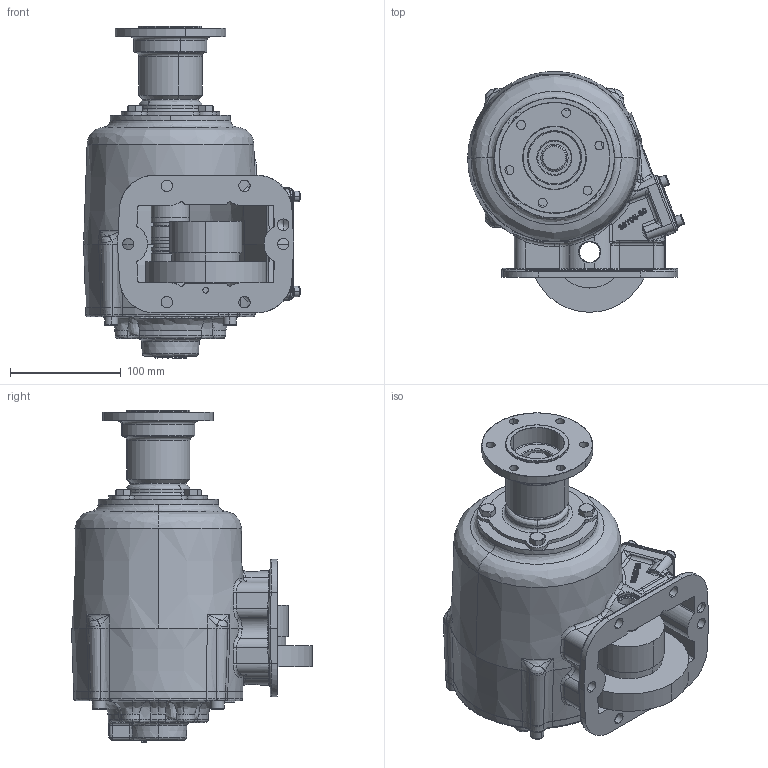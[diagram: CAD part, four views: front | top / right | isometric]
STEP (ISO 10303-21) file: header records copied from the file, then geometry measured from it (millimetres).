
FILE_DESCRIPTION (( 'STEP AP203' ), '1' );
FILE_NAME ('CS6S-XXXXX-X32X.STEP', '2011-11-29T20:09:17', ( 'User' ), ( 'Muncie Power Products, Inc.' ), 'SwSTEP 2.0', 'SolidWorks 2011', '' );
FILE_SCHEMA (( 'CONFIG_CONTROL_DESIGN' ));
Length unit declared in the file: inch
Products named in the file (1): CS6S-XXXXX-X32X
Bounding box: 195.33 x 216.75 x 299.11 mm (x, y, z)
Surface area: 449502.6 mm2 (no closed solid volume)
Topology: 0 solids, 24 shells, 2299 faces, 5721 edges, 3546 vertices
Faces by surface type: bspline 867, plane 514, cylinder 503, cone 292, torus 110, sphere 13
Entity records: 157394 total; most frequent: CARTESIAN_POINT 109224, ORIENTED_EDGE 11314, DIRECTION 7602, EDGE_CURVE 5661, VERTEX_POINT 3546, AXIS2_PLACEMENT_3D 2792, EDGE_LOOP 2535, FACE_OUTER_BOUND 2299
